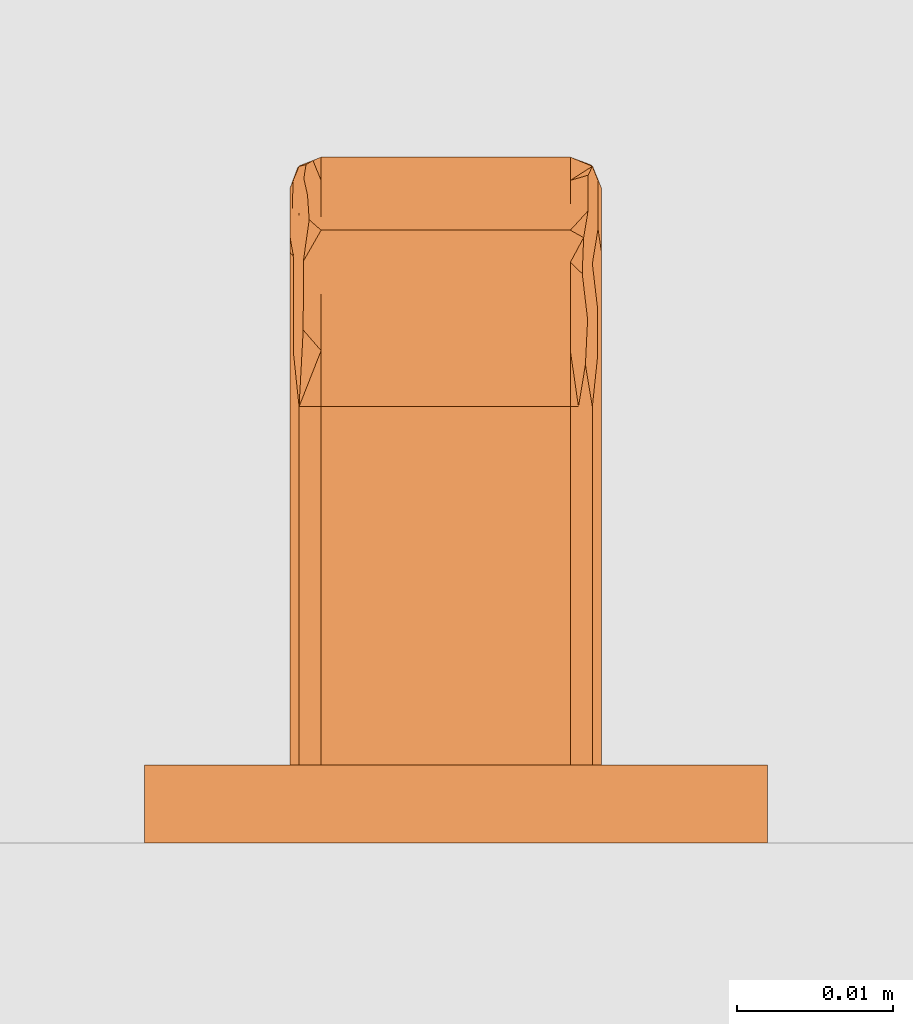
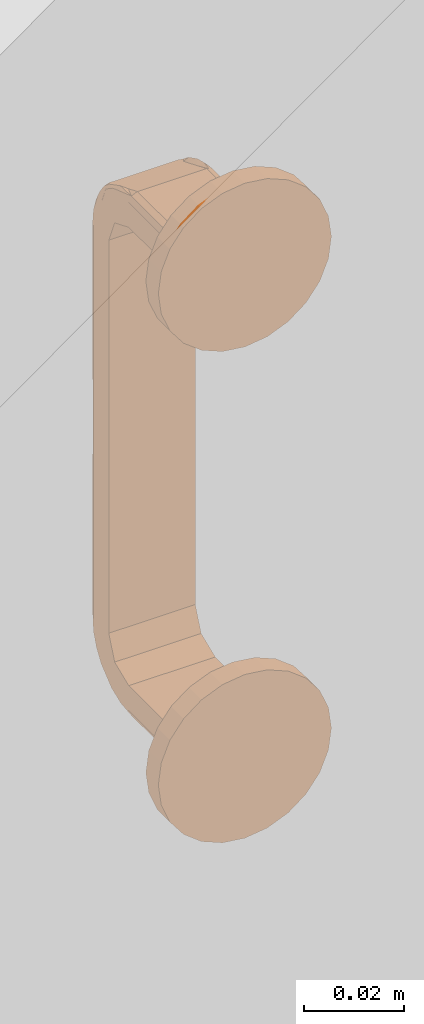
# One storey, part 42 of 67: 1 proxy.
"""IFC4 building model written with IfcOpenShell, lengths in millimetres."""

import ifcopenshell
import ifcopenshell.guid

model = None  # the IFC model being written
_history = None  # IfcOwnerHistory: only IFC2X3 demands one
_inside = {}  # id of a spatial element -> (the spatial element, [elements in it])
_under = {}  # id of a project, library or spatial element -> (it, [spatial elements below it])
_declared = {}  # id of a project -> (the project, [libraries it declares])
_typed = {}  # id of a type object -> (the type object, [elements of that type])
_made_of = {}  # id of a material, layer set ... -> (it, [elements and type objects made of it])


def new_model(schema):
    """Start an empty IFC model of exactly this schema.

    Asked for "IFC4X3", IfcOpenShell would pick the latest addendum, in which some entities
    have other attributes; the version numbers below select the first issue.
    IFC2X3 requires an IfcOwnerHistory on every rooted entity: one is made here for all.
    """
    global model, _history
    if schema == "IFC4X3":
        model = ifcopenshell.file(schema_version=(4, 3, 0, 0))
    else:
        model = ifcopenshell.file(schema=schema)
    _inside.clear()
    _under.clear()
    _declared.clear()
    _typed.clear()
    _made_of.clear()
    _history = None
    if model.schema == "IFC2X3":
        org = make("IfcOrganization", Name="unknown")
        user = make(
            "IfcPersonAndOrganization",
            ThePerson=make("IfcPerson", FamilyName="unknown"),
            TheOrganization=org,
        )
        app = make(
            "IfcApplication",
            ApplicationDeveloper=org,
            Version="unknown",
            ApplicationFullName="unknown",
            ApplicationIdentifier="unknown",
        )
        _history = make(
            "IfcOwnerHistory",
            OwningUser=user,
            OwningApplication=app,
            ChangeAction="ADDED",
            CreationDate=0,
        )
    return model


def make(cls, **values):
    """One entity of the class cls with the attributes given. An attribute that is None is left unset."""
    return model.create_entity(
        cls, **{name: value for name, value in values.items() if value is not None}
    )


def entity(cls, *values):
    """Any entity or typed value of the class cls, its attributes in the order of the schema. None: left unset."""
    e = model.create_entity(cls)
    for i, value in enumerate(values):
        if value is not None:
            e[i] = value
    return e


def rooted(cls, **values):
    """An entity with a GlobalId (a new one), such as an element, a storey or a relation."""
    return make(cls, GlobalId=ifcopenshell.guid.new(), OwnerHistory=_history, **values)


def si_unit(unit_type, name, prefix=None):
    """IfcSIUnit, for example si_unit("LENGTHUNIT", "METRE", prefix="MILLI")."""
    return make("IfcSIUnit", UnitType=unit_type, Prefix=prefix, Name=name)


def converted_unit(unit_type, name, factor, base, dimensions=None, offset=None):
    """IfcConversionBasedUnit, such as the inch: factor (a typed value) times the base unit."""
    return make(
        "IfcConversionBasedUnit"
        if offset is None
        else "IfcConversionBasedUnitWithOffset",
        ConversionOffset=offset,
        Dimensions=None
        if dimensions is None
        else entity("IfcDimensionalExponents", *dimensions),
        UnitType=unit_type,
        Name=name,
        ConversionFactor=make(
            "IfcMeasureWithUnit", ValueComponent=factor, UnitComponent=base
        ),
    )


def assignment(units):
    """IfcUnitAssignment: the units of a project."""
    return None if units is None else make("IfcUnitAssignment", Units=units)


def point(xyz):
    """IfcCartesianPoint."""
    return None if xyz is None else make("IfcCartesianPoint", Coordinates=xyz)


def direction(xyz):
    """IfcDirection."""
    return None if xyz is None else make("IfcDirection", DirectionRatios=xyz)


def frame(location, z_axis=None, x_axis=None):
    """IfcAxis2Placement3D, a coordinate frame: its origin and axes. An axis left out is left unset."""
    return make(
        "IfcAxis2Placement3D",
        Location=point(location),
        Axis=direction(z_axis),
        RefDirection=direction(x_axis),
    )


def origin():
    """The frame at (0, 0, 0) with its axes left unset."""
    return frame((0.0, 0.0, 0.0))


def place(relative_to, where):
    """IfcLocalPlacement: puts the frame where relative to a parent placement (None: the world)."""
    return make(
        "IfcLocalPlacement", PlacementRelTo=relative_to, RelativePlacement=where
    )


def context(
    kind, dimensions, precision=None, world=None, true_north=None, identifier=None
):
    """IfcGeometricRepresentationContext, for example the 3D "Model" context."""
    return make(
        "IfcGeometricRepresentationContext",
        ContextIdentifier=identifier,
        ContextType=kind,
        CoordinateSpaceDimension=dimensions,
        Precision=precision,
        WorldCoordinateSystem=world,
        TrueNorth=true_north,
    )


def subcontext(parent, identifier, kind, view, scale=None):
    """IfcGeometricRepresentationSubContext, for example "Body" below "Model"."""
    return make(
        "IfcGeometricRepresentationSubContext",
        ContextIdentifier=identifier,
        ContextType=kind,
        ParentContext=parent,
        TargetScale=scale,
        TargetView=view,
    )


def project(units=None, contexts=None):
    """IfcProject with its units and contexts."""
    return rooted(
        "IfcProject",
        Name="project",
        RepresentationContexts=contexts,
        UnitsInContext=assignment(units),
    )


def spatial(cls, under=None, at=None, **own):
    """A site, building, storey or space (cls), placed at a placement, below another one or the project."""
    s = rooted(cls, ObjectPlacement=at, **own)
    if under is not None:
        _under.setdefault(under.id(), (under, []))[1].append(s)
    return s


def point_list(points):
    """IfcCartesianPointList2D or 3D."""
    cls = (
        "IfcCartesianPointList2D" if len(points[0]) == 2 else "IfcCartesianPointList3D"
    )
    return make(cls, CoordList=points)


def polygons(points, faces, closed=None, point_numbers=None):
    """IfcPolygonalFaceSet: a face is its outer loop, then its inner loops; points numbered from 1."""
    made = []
    for loops in faces:
        if len(loops) == 1:
            made.append(make("IfcIndexedPolygonalFace", CoordIndex=loops[0]))
        else:
            made.append(
                make(
                    "IfcIndexedPolygonalFaceWithVoids",
                    CoordIndex=loops[0],
                    InnerCoordIndices=loops[1:],
                )
            )
    return make(
        "IfcPolygonalFaceSet",
        Coordinates=point_list(points),
        Closed=closed,
        Faces=made,
        PnIndex=point_numbers,
    )


def shape(context_of_items, identifier, shape_type, items):
    """IfcShapeRepresentation: the items that make up one representation, for example the "Body"."""
    return make(
        "IfcShapeRepresentation",
        ContextOfItems=context_of_items,
        RepresentationIdentifier=identifier,
        RepresentationType=shape_type,
        Items=items,
    )


def source(mapping_origin, context_of_items, identifier, shape_type, items):
    """IfcRepresentationMap: a shape defined once, which mapped items show again and again."""
    return make(
        "IfcRepresentationMap",
        MappingOrigin=mapping_origin,
        MappedRepresentation=shape(context_of_items, identifier, shape_type, items),
    )


def transform(
    local_origin,
    x_axis=None,
    y_axis=None,
    z_axis=None,
    scale=None,
    scale2=None,
    scale3=None,
    uniform=True,
):
    """IfcCartesianTransformationOperator3D, or its non-uniform kind. x_axis, y_axis, z_axis: its Axis1, 2, 3."""
    if uniform:
        return make(
            "IfcCartesianTransformationOperator3D",
            Axis1=direction(x_axis),
            Axis2=direction(y_axis),
            LocalOrigin=point(local_origin),
            Scale=scale,
            Axis3=direction(z_axis),
        )
    return make(
        "IfcCartesianTransformationOperator3DnonUniform",
        Axis1=direction(x_axis),
        Axis2=direction(y_axis),
        LocalOrigin=point(local_origin),
        Scale=scale,
        Axis3=direction(z_axis),
        Scale2=scale2,
        Scale3=scale3,
    )


def mapped(mapping_source, mapping_target):
    """IfcMappedItem: shows the shape of a source again, moved by a transform."""
    return make(
        "IfcMappedItem", MappingSource=mapping_source, MappingTarget=mapping_target
    )


def material(Name=None, Category=None):
    """IfcMaterial."""
    return make("IfcMaterial", Name=Name, Category=Category)


def made_of(thing, what):
    """Note that an element or type object is made of a material, layer set ...; save() writes the relation."""
    if what is not None:
        _made_of.setdefault(what.id(), (what, []))[1].append(thing)
    return thing


def type_object(cls, material=None, **own):
    """A type object (cls), such as IfcWallType, which elements share."""
    return made_of(rooted(cls, **own), material)


def type_shapes(of_type, sources):
    """Give a type object the sources (RepresentationMaps) that its elements show as mapped items."""
    of_type.RepresentationMaps = sources


def element(
    cls,
    number,
    at=None,
    inside=None,
    cuts=None,
    type_object=None,
    material=None,
    context=None,
    identifier="Body",
    shape_type=None,
    held_by="IfcProductDefinitionShape",
    body=None,
    shapes=None,
    **own,
):
    """One element of the class cls, such as IfcWall. Its Tag is "e" and its number.

    at: its placement. inside: the storey or other place that contains it. cuts: it is an
    opening in that element (IfcRelVoidsElement). A single representation is given by context,
    identifier, shape_type and body (its items); several are given by shapes. held_by: the class
    of the entity that holds the representations. save() writes the other relations.
    """
    e = rooted(cls, Tag="e%d" % number, ObjectPlacement=at, **own)
    if body is not None:
        shapes = [shape(context, identifier, shape_type, body)]
    if shapes is not None:
        e.Representation = make(held_by, Representations=shapes)
    if inside is not None:
        _inside.setdefault(inside.id(), (inside, []))[1].append(e)
    if cuts is not None:
        rooted(
            "IfcRelVoidsElement", RelatingBuildingElement=cuts, RelatedOpeningElement=e
        )
    if type_object is not None:
        _typed.setdefault(type_object.id(), (type_object, []))[1].append(e)
    return made_of(e, material)


def aggregate(whole, parts):
    """IfcRelAggregates: a whole, such as a stair, and the parts it consists of."""
    return rooted("IfcRelAggregates", RelatingObject=whole, RelatedObjects=parts)


def save(model, path):
    """Write the relations noted so far, then the file.

    IfcRelAggregates (storeys below a building ...), IfcRelContainedInSpatialStructure (elements
    in a storey), IfcRelDefinesByType, IfcRelAssociatesMaterial and IfcRelDeclares: one each for
    every whole, place, type object, material and project.
    """
    for whole, parts in _under.values():
        aggregate(whole, parts)
    for where, things in _inside.values():
        rooted(
            "IfcRelContainedInSpatialStructure",
            RelatedElements=things,
            RelatingStructure=where,
        )
    for kind, things in _typed.values():
        rooted("IfcRelDefinesByType", RelatedObjects=things, RelatingType=kind)
    for what, things in _made_of.values():
        rooted("IfcRelAssociatesMaterial", RelatedObjects=things, RelatingMaterial=what)
    for by, libraries in _declared.values():
        rooted("IfcRelDeclares", RelatingContext=by, RelatedDefinitions=libraries)
    model.write(path)


model = new_model("IFC4")

# Units and contexts
model_context = context("Model", 3, precision=0.01, world=origin(), true_north=direction((0.0, 1.0)))
body_context = subcontext(model_context, "Body", "Model", "MODEL_VIEW")
ifc_project = project(units=[si_unit("LENGTHUNIT", "METRE", prefix="MILLI"), si_unit("AREAUNIT", "SQUARE_METRE"), si_unit("VOLUMEUNIT", "CUBIC_METRE"), converted_unit("PLANEANGLEUNIT", "DEGREE", entity("IfcPlaneAngleMeasure", 0.017453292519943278), si_unit("PLANEANGLEUNIT", "RADIAN"), dimensions=[0, 0, 0, 0, 0, 0, 0])], contexts=[model_context])

# Site, building, storey, space
site_placement = place(None, origin())
site = spatial("IfcSite", under=ifc_project, at=site_placement, Name="Tomtens navn", CompositionType="ELEMENT")
building_placement = place(site_placement, origin())
building = spatial("IfcBuilding", under=site, at=building_placement, Name="Byggets navn", CompositionType="ELEMENT")
storey_placement = place(building_placement, origin())
storey = spatial("IfcBuildingStorey", under=building, at=storey_placement, Name="Level 01", CompositionType="ELEMENT", Elevation=2.1993652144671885e-25)
space_placement = place(storey_placement, origin())
space = spatial("IfcSpace", under=storey, at=space_placement, Name="102", CompositionType="ELEMENT", PredefinedType="NOTDEFINED")

# Proxy
ifc_material = material(Name="Handtag, vitt", Category="Unassigned")
building_element_proxy_type = type_object("IfcBuildingElementProxyType", Name="Handtag skåp1:Handtag skåp", PredefinedType="NOTDEFINED", material=ifc_material)
shared_shape = source(origin(), body_context, "Body", "Tessellation", [
    polygons([(8.670220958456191, -4.999999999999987, 4.021099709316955), (10.084434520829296, -4.9999999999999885, 3.435313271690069), (10.67022095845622, -4.999999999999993, 2.021099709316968), (10.67022095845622, -5.0000000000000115, -4.0210997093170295), (-9.32977904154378, -5.0000000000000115, -4.0210997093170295), (-9.32977904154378, -4.999999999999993, 2.021099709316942), (-8.743992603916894, -4.9999999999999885, 3.435313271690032), (-7.32977904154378, -4.999999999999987, 4.021099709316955), (8.670220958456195, -28.00000000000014, 4.0210997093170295), (10.084434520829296, -28.000000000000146, 3.435313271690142), (10.67022095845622, -28.00000000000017, 2.021099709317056), (8.670220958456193, -15.654960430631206, 4.02109970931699), (10.67022095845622, -17.34503987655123, 2.021099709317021), (10.08659387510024, -16.21238630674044, 3.433150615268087), (10.67022095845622, -37.914414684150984, -2.085585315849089), (10.67022095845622, -42.02109970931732, -11.999999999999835), (10.67022095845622, -42.02109970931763, -107.99999999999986), (10.67022095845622, -37.914414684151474, -117.91441468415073), (10.67022095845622, -28.00000000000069, -122.02109970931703), (10.67022095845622, -4.999999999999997, -122.02109970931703), (10.67022095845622, -4.999999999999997, -115.97890029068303), (10.67022095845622, -28.000000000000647, -115.97890029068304), (10.67022095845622, -33.641934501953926, -113.64193450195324), (10.67022095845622, -35.978900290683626, -107.99999999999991), (10.67022095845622, -35.978900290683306, -11.999999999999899), (10.67022095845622, -33.64193450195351, -6.358065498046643), (10.67022095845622, -28.000000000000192, -4.021099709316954), (-9.32977904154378, -28.000000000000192, -4.021099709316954), (-9.32977904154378, -33.64193450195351, -6.358065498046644), (-9.32977904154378, -35.97890029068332, -11.999999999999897), (-9.32977904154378, -35.97890029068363, -107.99999999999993), (-9.32977904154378, -33.641934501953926, -113.64193450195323), (-9.32977904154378, -28.000000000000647, -115.978900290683), (-9.32977904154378, -4.999999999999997, -115.978900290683), (-9.32977904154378, -4.999999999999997, -122.02109970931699), (-9.32977904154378, -28.00000000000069, -122.02109970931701), (-9.32977904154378, -37.91441468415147, -117.91441468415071), (-9.32977904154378, -42.0210997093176, -107.9999999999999), (-9.32977904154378, -42.02109970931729, -11.99999999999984), (-9.32977904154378, -37.91441468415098, -2.085585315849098), (-9.32977904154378, -28.000000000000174, 2.0210997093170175), (-8.743992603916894, -28.000000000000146, 3.435313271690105), (-7.329779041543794, -28.000000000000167, 4.0210997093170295), (-9.32977904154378, -15.654960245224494, 2.0210997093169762), (-7.3297790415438, -17.3450402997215, 4.021099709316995), (-8.741829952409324, -16.212386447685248, 3.4374726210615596), (8.670220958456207, -39.328628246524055, -0.6713717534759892), (8.670220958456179, -44.021099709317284, -11.999999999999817), (10.084434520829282, -43.43531327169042, -11.999999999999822), (10.67022095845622, -31.601265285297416, 0.5294067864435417), (8.670220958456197, -41.037713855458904, -4.797469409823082), (10.084434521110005, -40.40873190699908, -2.820007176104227), (8.670220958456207, -35.20253058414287, 1.0377138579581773), (9.809043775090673, -37.34144424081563, 0.5752165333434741), (9.818751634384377, -32.92350079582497, 2.8642465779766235), (10.67022095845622, -39.96775719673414, -7.042792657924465), (10.377327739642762, -28.000000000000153, 2.7282064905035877), (8.670220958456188, -42.529406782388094, -8.398734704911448), (9.779150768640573, -42.65191997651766, -6.400304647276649), (10.431420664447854, -34.75591670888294, 1.3575143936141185), (10.447049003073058, -37.641402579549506, -0.5884869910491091), (10.67022095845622, -34.7578399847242, -0.7780892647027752), (10.453824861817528, -31.5292743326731, 2.5026982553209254), (8.670220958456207, -31.601265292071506, 2.5294067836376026), (8.670220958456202, -40.18317105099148, -2.7344205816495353), (9.435587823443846, -40.00295364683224, -1.6197407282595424), (9.543801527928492, -41.59747716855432, -3.9137042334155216), (10.67022095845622, -38.941085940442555, -4.564188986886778), (10.502246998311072, -40.95405539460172, -4.794062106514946), (10.477567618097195, -42.45420227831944, -8.476170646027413), (9.193272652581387, -43.80444460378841, -11.999999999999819), (9.638611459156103, -43.53877057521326, -9.303396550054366), (10.67022095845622, -40.99442845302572, -9.521396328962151), (-7.329779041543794, -44.021099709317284, -11.999999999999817), (-7.329779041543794, -39.328628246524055, -0.6713717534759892), (-8.743992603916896, -43.43531327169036, -11.999999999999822), (-7.329779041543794, -35.20253057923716, 1.0377138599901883), (-8.743992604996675, -37.179992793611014, 0.40873192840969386), (-9.32977904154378, -40.52940677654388, -8.39873469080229), (-7.329779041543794, -41.03771385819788, -4.7974694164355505), (-8.468601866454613, -40.57521654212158, -2.658555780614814), (-8.478309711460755, -42.86424658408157, -7.076499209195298), (-9.32977904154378, -32.95720734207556, -0.03224280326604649), (-9.036885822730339, -42.72820649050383, -11.999999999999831), (-7.329779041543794, -31.601265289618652, 2.529406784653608), (-8.43870885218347, -33.59969531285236, 2.6519199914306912), (-9.090978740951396, -41.35751443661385, -5.244083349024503), (-9.106607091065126, -39.41151304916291, -2.3585974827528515), (-9.32977904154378, -39.221910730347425, -5.242160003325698), (-9.11338295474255, -42.50269824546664, -8.470725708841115), (-7.329779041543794, -42.52940678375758, -8.398734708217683), (-7.329779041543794, -37.26557941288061, 0.18317105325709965), (-8.095145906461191, -36.54048464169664, 1.37463273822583), (-8.182791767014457, -38.855367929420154, -0.47819170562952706), (-9.32977904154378, -35.43581101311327, -1.0589140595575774), (-7.852830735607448, -28.00000000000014, 3.8044446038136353), (-8.29816953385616, -30.69660343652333, 3.5387705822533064), (-9.060718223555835, -31.048754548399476, 2.7104148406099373), (-9.074370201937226, -34.340507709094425, 1.5930015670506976), (-9.32977904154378, -30.47860367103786, 0.9944284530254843), (-7.32977904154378, -33.664314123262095, 1.6748639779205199), (8.670220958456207, -33.664314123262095, 1.6748639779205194), (8.670220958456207, -30.748770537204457, 2.882521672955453), (-7.32977904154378, -41.67486397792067, -6.335685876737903), (8.670220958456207, -41.67486397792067, -6.335685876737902), (8.670220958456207, -40.50174611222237, -3.5035288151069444), (-7.32977904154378, -36.496471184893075, 0.5017461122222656), (8.670220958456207, -36.496471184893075, 0.5017461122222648), (-7.32977904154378, -30.83215706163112, 2.847981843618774), (8.670220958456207, -42.882521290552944, -9.251228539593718), (-7.32977904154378, -42.84798184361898, -9.167842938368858), (-7.32977904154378, -40.501746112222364, -3.5035288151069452), (8.670220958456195, -44.0210997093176, -107.99999999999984), (10.084434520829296, -43.435313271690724, -107.99999999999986), (10.67022095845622, -42.02109970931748, -61.38015936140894), (8.670220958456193, -44.021099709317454, -59.99999999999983), (8.670220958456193, -44.02109970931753, -83.30991987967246), (10.67022095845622, -42.02109970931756, -84.69007929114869), (8.670220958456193, -44.021099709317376, -36.69008012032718), (10.67022095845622, -42.02109970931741, -36.69007929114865), (10.67022095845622, -42.02109970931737, -24.34503925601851), (8.670220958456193, -44.021099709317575, -95.65495940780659), (8.670220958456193, -44.02109970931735, -24.345040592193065), (10.67022095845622, -42.021099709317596, -95.65495996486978), (10.084434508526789, -43.43531328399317, -90.1725199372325), (10.67022095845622, -42.021099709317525, -73.03511932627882), (10.043884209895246, -43.4747328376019, -67.20763959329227), (10.084434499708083, -43.435313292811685, -30.517560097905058), (10.084434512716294, -43.435313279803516, -43.7229280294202), (10.67022095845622, -42.021099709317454, -49.035119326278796), (10.049878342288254, -43.469044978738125, -55.462843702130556), (8.670220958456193, -44.02109970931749, -71.65495993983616), (10.188152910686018, -43.32336027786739, -78.66752152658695), (8.670220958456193, -44.02109970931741, -48.345040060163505), (-8.743992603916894, -43.43531327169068, -107.99999999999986), (-7.329779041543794, -44.0210997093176, -107.99999999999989), (-7.3297790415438, -44.02109970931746, -61.38015933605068), (-9.32977904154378, -42.021099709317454, -59.999999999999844), (-9.32977904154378, -42.02109970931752, -83.30992008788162), (-7.329779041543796, -44.02109970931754, -84.69007966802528), (-9.32977904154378, -42.02109970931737, -36.6900794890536), (-7.329779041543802, -44.021099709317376, -36.69007998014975), (-7.329779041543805, -44.02109970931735, -24.345039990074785), (-9.32977904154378, -42.02109970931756, -95.65495983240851), (-9.32977904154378, -42.02109970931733, -24.34503974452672), (-7.329779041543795, -44.021099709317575, -95.6549600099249), (-8.743992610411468, -43.43531326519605, -90.17252002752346), (-7.329779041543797, -44.0210997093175, -73.03511950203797), (-8.783412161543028, -43.39476296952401, -67.20763991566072), (-8.743992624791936, -43.43531325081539, -30.51756039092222), (-8.743992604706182, -43.43531327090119, -43.72292838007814), (-7.3297790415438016, -44.02109970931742, -49.03511997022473), (-8.777724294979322, -43.40075710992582, -55.462844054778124), (-9.32977904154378, -42.02109970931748, -71.65496025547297), (-8.632039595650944, -43.53903167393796, -78.66752173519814), (-9.32977904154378, -42.021099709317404, -48.34503974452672), (8.670220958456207, -39.32862824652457, -119.32862824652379), (8.670220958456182, -28.000000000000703, -124.02109970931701), (10.08443452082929, -28.0000000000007, -123.43531327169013), (10.67022095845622, -40.52940678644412, -111.60126528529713), (8.670220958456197, -35.202530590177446, -121.03771385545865), (10.084434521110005, -37.17999282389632, -120.40873190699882), (8.670220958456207, -41.03771385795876, -115.20253058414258), (9.809043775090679, -40.57521653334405, -117.34144424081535), (9.818751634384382, -42.864246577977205, -112.9235007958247), (10.67022095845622, -32.95720734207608, -119.96775719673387), (10.377327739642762, -42.728206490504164, -107.99999999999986), (8.67022095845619, -31.601265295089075, -122.52940678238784), (9.779150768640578, -33.59969535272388, -122.6519199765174), (10.431420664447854, -41.3575143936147, -114.75591670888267), (10.447049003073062, -39.41151300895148, -117.64140257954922), (10.67022095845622, -39.2219107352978, -114.75783998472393), (10.453824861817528, -42.50269825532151, -111.52927433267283), (8.670220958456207, -42.52940678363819, -111.60126529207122), (8.670220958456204, -37.26557941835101, -120.18317105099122), (9.435587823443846, -38.38025927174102, -120.00295364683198), (9.543801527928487, -36.08629576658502, -121.59747716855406), (10.67022095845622, -35.435811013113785, -118.9410859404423), (10.502246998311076, -35.205937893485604, -120.95405539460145), (10.477567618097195, -31.52382935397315, -122.45420227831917), (9.193272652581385, -28.0000000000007, -123.80444460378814), (9.638611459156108, -30.69660344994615, -123.538770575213), (10.67022095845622, -30.47860367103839, -120.99442845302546), (-7.329779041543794, -28.000000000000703, -124.02109970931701), (-7.329779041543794, -39.32862824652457, -119.32862824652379), (-8.743992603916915, -28.0000000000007, -123.43531327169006), (-7.329779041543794, -41.03771385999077, -115.20253057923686), (-8.743992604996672, -40.40873192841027, -117.17999279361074), (-9.32977904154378, -31.60126530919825, -120.52940677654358), (-7.329779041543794, -35.20253058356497, -121.03771385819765), (-8.468601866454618, -37.341444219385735, -120.57521654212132), (-8.478309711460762, -32.92350079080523, -122.8642465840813), (-9.32977904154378, -39.967757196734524, -112.9572073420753), (-9.036885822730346, -28.000000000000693, -122.72820649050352), (-7.329779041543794, -42.529406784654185, -111.60126528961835), (-8.438708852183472, -42.65191999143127, -113.59969531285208), (-9.090978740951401, -34.75591665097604, -121.35751443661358), (-9.106607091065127, -37.64140251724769, -119.41151304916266), (-9.32977904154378, -34.75783999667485, -119.22191073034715), (-9.113382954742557, -31.529274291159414, -122.50269824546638), (-7.329779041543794, -31.601265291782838, -122.52940678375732), (-7.329779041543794, -40.18317105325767, -117.26557941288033), (-8.095145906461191, -41.37463273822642, -116.54048464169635), (-8.182791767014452, -39.521808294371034, -118.8553679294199), (-9.32977904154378, -38.941085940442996, -115.435811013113), (-7.852830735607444, -43.804444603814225, -107.99999999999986), (-8.298169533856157, -43.53877058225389, -110.69660343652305), (-9.060718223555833, -42.710414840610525, -111.04875454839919), (-9.074370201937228, -41.59300156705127, -114.34050770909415), (-9.32977904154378, -40.99442845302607, -110.47860367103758), (-7.32977904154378, -41.6748639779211, -113.66431412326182), (8.670220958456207, -41.6748639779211, -113.66431412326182), (8.670220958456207, -42.88252167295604, -110.74877053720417), (-7.32977904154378, -33.66431412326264, -121.67486397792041), (8.670220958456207, -33.66431412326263, -121.67486397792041), (8.670220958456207, -36.4964711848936, -120.50174611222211), (-7.32977904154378, -40.50174611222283, -116.49647118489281), (8.670220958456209, -40.50174611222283, -116.49647118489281), (-7.32977904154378, -42.84798184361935, -110.83215706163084), (8.670220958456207, -30.748771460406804, -122.88252129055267), (-7.32977904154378, -30.832157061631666, -122.84798184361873), (-7.32977904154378, -36.49647118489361, -120.50174611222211), (8.670220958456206, -4.99999999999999, -124.02109970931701), (-7.329779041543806, -4.99999999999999, -124.021099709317), (-8.743992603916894, -4.99999999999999, -123.43531327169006), (10.084434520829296, -4.99999999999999, -123.43531327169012), (8.670220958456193, -17.345041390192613, -124.021099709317), (10.67022095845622, -15.654959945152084, -122.02109970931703), (10.086593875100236, -16.787613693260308, -123.43315061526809), (-9.32977904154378, -17.34504010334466, -122.02109970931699), (-7.3297790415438, -15.654959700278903, -124.021099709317), (-8.741829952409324, -16.787613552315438, -123.43747262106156)], [[[8, 1, 2, 3, 4, 5, 6, 7]], [[30, 25, 24, 31]], [[35, 34, 21, 20, 226, 223, 224, 225]], [[13, 10, 57, 11]], [[10, 13, 14]], [[14, 12, 9]], [[12, 2, 1]], [[14, 2, 12]], [[3, 14, 13]], [[3, 2, 14]], [[9, 10, 14]], [[4, 3, 13, 11, 50, 62, 15, 68, 56, 73, 16, 121, 120, 130, 115, 126, 118, 124, 17, 160, 172, 18, 178, 166, 183, 19, 228, 20, 21, 22, 23, 24, 25, 26, 27]], [[5, 4, 27, 28]], [[184, 231, 224, 223, 227, 158]], [[34, 35, 230, 36, 189, 199, 37, 205, 193, 210, 38, 144, 139, 154, 138, 156, 141, 145, 39, 79, 89, 40, 95, 83, 100, 41, 44, 6, 5, 28, 29, 30, 31, 32, 33]], [[45, 42, 96, 43]], [[42, 45, 46]], [[46, 44, 41]], [[44, 7, 6]], [[46, 7, 44]], [[8, 46, 45]], [[8, 7, 46]], [[41, 42, 46]], [[1, 8, 45, 43, 9, 12]], [[33, 22, 21, 34]], [[61, 62, 60]], [[69, 56, 68]], [[47, 65, 66]], [[53, 54, 55]], [[59, 51, 105, 58]], [[67, 65, 106, 51]], [[70, 56, 69]], [[63, 60, 50]], [[10, 64, 55]], [[52, 67, 59]], [[54, 53, 108, 47]], [[58, 71, 72]], [[60, 55, 54]], [[68, 61, 69]], [[67, 52, 66]], [[15, 61, 68]], [[63, 10, 55]], [[11, 57, 10, 63]], [[71, 58, 110, 48]], [[49, 16, 70]], [[61, 60, 54]], [[50, 11, 63]], [[52, 61, 54]], [[62, 61, 15]], [[62, 50, 60]], [[55, 60, 63]], [[10, 9, 103, 64]], [[55, 64, 102, 53]], [[52, 54, 66]], [[54, 47, 66]], [[65, 67, 66]], [[51, 59, 67]], [[61, 52, 69]], [[52, 59, 69]], [[70, 69, 59]], [[59, 72, 70]], [[70, 16, 73, 56]], [[72, 71, 49]], [[70, 72, 49]], [[58, 72, 59]], [[26, 29, 28, 27]], [[25, 30, 29, 26]], [[96, 85, 109, 43]], [[90, 87, 79]], [[86, 77, 101, 85]], [[98, 99, 86]], [[93, 92, 107, 77]], [[87, 82, 81]], [[81, 82, 80]], [[99, 95, 78]], [[88, 89, 87]], [[86, 99, 78]], [[78, 94, 93]], [[76, 91, 82]], [[81, 80, 112, 75]], [[92, 93, 94]], [[94, 78, 88]], [[40, 88, 95]], [[90, 76, 82]], [[39, 84, 76, 90]], [[98, 97, 42]], [[97, 98, 86]], [[88, 87, 81]], [[79, 39, 90]], [[88, 81, 94]], [[89, 88, 40]], [[89, 79, 87]], [[82, 87, 90]], [[76, 74, 111, 91]], [[82, 91, 104, 80]], [[77, 86, 93]], [[86, 78, 93]], [[81, 75, 94]], [[92, 94, 75]], [[95, 88, 78]], [[97, 96, 42]], [[85, 96, 97]], [[85, 97, 86]], [[42, 41, 98]], [[100, 83, 95, 99]], [[99, 98, 100]], [[98, 41, 100]], [[103, 9, 43, 109, 85, 101, 77, 107, 92, 75, 47, 108, 53, 102, 64]], [[105, 51, 106, 65, 47, 75, 112, 80, 104, 91, 111, 74, 48, 110, 58]], [[121, 16, 49, 128, 129, 130, 120]], [[118, 125, 114, 167, 17, 124]], [[126, 133, 118]], [[126, 115, 127]], [[123, 119, 134, 129, 128, 49, 71, 48]], [[125, 117, 122, 113, 114]], [[131, 130, 129]], [[130, 131, 115]], [[126, 127, 133]], [[127, 116, 132]], [[133, 117, 125]], [[131, 134, 116]], [[131, 116, 127]], [[115, 131, 127]], [[131, 129, 134]], [[133, 127, 132]], [[133, 132, 117]], [[118, 133, 125]], [[143, 74, 76, 150, 151, 152, 142]], [[140, 147, 135, 206, 136, 146]], [[148, 155, 140]], [[148, 137, 149]], [[145, 141, 156, 151, 150, 76, 84, 39]], [[147, 139, 144, 38, 135]], [[153, 152, 151]], [[152, 153, 137]], [[148, 149, 155]], [[149, 138, 154]], [[155, 139, 147]], [[153, 156, 138]], [[153, 138, 149]], [[137, 153, 149]], [[153, 151, 156]], [[155, 149, 154]], [[155, 154, 139]], [[140, 155, 147]], [[48, 74, 143, 142, 152, 137, 148, 140, 146, 136, 113, 122, 117, 132, 116, 134, 119, 123]], [[171, 172, 170]], [[179, 166, 178]], [[157, 176, 164]], [[163, 164, 165]], [[169, 161, 215, 168]], [[176, 157, 175]], [[180, 166, 179]], [[173, 170, 160]], [[114, 174, 165]], [[162, 177, 169]], [[164, 163, 218, 157]], [[168, 181, 182]], [[170, 165, 164]], [[178, 171, 179]], [[177, 162, 176]], [[18, 171, 178]], [[173, 114, 165]], [[17, 167, 114, 173]], [[181, 168, 220, 158]], [[159, 19, 180]], [[171, 170, 164]], [[160, 17, 173]], [[162, 171, 164]], [[172, 171, 18]], [[172, 160, 170]], [[165, 170, 173]], [[114, 113, 213, 174]], [[165, 174, 212, 163]], [[177, 175, 216, 161]], [[164, 176, 162]], [[175, 177, 176]], [[161, 169, 177]], [[171, 162, 179]], [[162, 169, 179]], [[180, 179, 169]], [[169, 182, 180]], [[180, 19, 183, 166]], [[182, 181, 159]], [[180, 182, 159]], [[168, 182, 169]], [[23, 32, 31, 24]], [[22, 33, 32, 23]], [[206, 195, 219, 136]], [[200, 197, 189]], [[196, 187, 211, 195]], [[208, 209, 196]], [[203, 202, 217, 187]], [[197, 192, 191]], [[191, 192, 190]], [[209, 205, 188]], [[198, 199, 197]], [[196, 209, 188]], [[188, 204, 203]], [[186, 201, 192]], [[191, 190, 222, 185]], [[202, 203, 204]], [[203, 196, 188]], [[37, 198, 205]], [[200, 186, 192]], [[36, 194, 186, 200]], [[208, 207, 135]], [[207, 208, 196]], [[198, 197, 191]], [[189, 36, 200]], [[198, 191, 204]], [[199, 198, 37]], [[199, 189, 197]], [[192, 197, 200]], [[186, 184, 221, 201]], [[192, 201, 214, 190]], [[196, 203, 187]], [[198, 204, 188]], [[191, 185, 204]], [[202, 204, 185]], [[205, 198, 188]], [[207, 206, 135]], [[195, 206, 207]], [[195, 207, 196]], [[135, 38, 208]], [[210, 193, 205, 209]], [[209, 208, 210]], [[208, 38, 210]], [[213, 113, 136, 219, 195, 211, 187, 217, 202, 185, 157, 218, 163, 212, 174]], [[215, 161, 216, 175, 157, 185, 222, 190, 214, 201, 221, 184, 158, 220, 168]], [[228, 226, 20]], [[226, 228, 229]], [[229, 227, 223]], [[227, 159, 181, 158]], [[229, 159, 227]], [[19, 229, 228]], [[19, 159, 229]], [[223, 226, 229]], [[231, 225, 224]], [[225, 231, 232]], [[232, 230, 35]], [[230, 186, 194, 36]], [[232, 186, 230]], [[184, 232, 231]], [[184, 186, 232]], [[35, 225, 232]]], closed=True),
    polygons([(-20.00000000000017, -4.999999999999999, 1.386238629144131e-14), (-19.318516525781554, -4.999999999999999, -5.176380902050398), (-17.320508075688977, -4.999999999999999, -9.999999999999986), (-14.14213562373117, -4.999999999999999, -14.142135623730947), (-10.000000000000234, -4.999999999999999, -17.320508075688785), (-5.176380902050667, -4.999999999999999, -19.318516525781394), (-2.580269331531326e-13, -4.999999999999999, -20.00000000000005), (5.176380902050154, -4.999999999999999, -19.31851652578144), (9.999999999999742, -4.999999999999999, -17.320508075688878), (14.142135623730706, -4.999999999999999, -14.142135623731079), (17.320508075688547, -4.999999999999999, -10.000000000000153), (19.318516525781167, -4.999999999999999, -5.176380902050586), (19.999999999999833, -4.999999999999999, -5.075939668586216e-14), (19.3185165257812, -4.999999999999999, 5.17638090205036), (17.32050807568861, -4.999999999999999, 9.999999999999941), (14.142135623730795, -4.999999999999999, 14.142135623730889), (9.99999999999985, -4.999999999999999, 17.32050807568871), (5.176380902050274, -4.999999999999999, 19.31851652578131), (-1.3958834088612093e-13, -4.999999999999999, 19.99999999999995), (-5.176380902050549, -4.999999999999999, 19.318516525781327), (-10.000000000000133, -4.999999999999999, 17.320508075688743), (-14.142135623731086, -4.999999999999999, 14.142135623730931), (-17.320508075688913, -4.999999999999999, 9.999999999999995), (-19.318516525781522, -4.999999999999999, 5.176380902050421), (-20.00000000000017, 0.0, 4.9806020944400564e-15), (-19.318516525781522, 0.0, 5.176380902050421), (-17.320508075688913, 0.0, 9.999999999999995), (-14.142135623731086, 0.0, 14.142135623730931), (-10.000000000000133, 0.0, 17.320508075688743), (-5.176380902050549, 0.0, 19.318516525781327), (-1.3958834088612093e-13, 0.0, 19.99999999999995), (5.176380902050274, 0.0, 19.31851652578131), (9.99999999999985, 0.0, 17.32050807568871), (14.142135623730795, 0.0, 14.142135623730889), (17.32050807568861, 0.0, 9.999999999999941), (19.3185165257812, 0.0, 5.17638090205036), (19.999999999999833, 0.0, -1.622393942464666e-13), (19.318516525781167, 0.0, -5.176380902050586), (17.320508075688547, 0.0, -10.000000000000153), (14.142135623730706, 0.0, -14.142135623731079), (9.999999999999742, 0.0, -17.320508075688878), (5.176380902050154, 0.0, -19.31851652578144), (-2.580269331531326e-13, 0.0, -20.00000000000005), (-5.176380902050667, 0.0, -19.318516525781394), (-10.000000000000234, 0.0, -17.320508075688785), (-14.14213562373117, 0.0, -14.142135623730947), (-17.320508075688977, 0.0, -9.999999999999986), (-19.318516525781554, 0.0, -5.176380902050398)], [[[8, 9, 10, 11, 12, 13, 14, 15, 16, 17, 18, 19, 20, 21, 22, 23, 24, 1, 2, 3, 4, 5, 6, 7]], [[31, 32, 33, 34, 35, 36, 37, 38, 39, 40, 41, 42, 43, 44, 45, 46, 47, 48, 25, 26, 27, 28, 29, 30]], [[48, 2, 1, 25]], [[47, 3, 2, 48]], [[5, 4, 46, 45]], [[47, 46, 4, 3]], [[6, 5, 45, 44]], [[7, 6, 44, 43]], [[42, 8, 7, 43]], [[41, 9, 8, 42]], [[11, 10, 40, 39]], [[41, 40, 10, 9]], [[12, 11, 39, 38]], [[13, 12, 38, 37]], [[36, 14, 13, 37]], [[35, 15, 14, 36]], [[17, 16, 34, 33]], [[35, 34, 16, 15]], [[18, 17, 33, 32]], [[19, 18, 32, 31]], [[30, 20, 19, 31]], [[29, 21, 20, 30]], [[23, 22, 28, 27]], [[29, 28, 22, 21]], [[24, 23, 27, 26]], [[1, 24, 26, 25]]], closed=True),
    polygons([(-20.000000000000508, -4.999999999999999, -120.0), (-19.31851652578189, -4.999999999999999, -125.17638090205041), (-17.32050807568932, -4.999999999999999, -130.0), (-14.142135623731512, -4.999999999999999, -134.14213562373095), (-10.000000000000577, -4.999999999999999, -137.3205080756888), (-5.176380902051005, -4.999999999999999, -139.3185165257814), (-6.006528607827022e-13, -4.999999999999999, -140.00000000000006), (5.176380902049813, -4.999999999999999, -139.31851652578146), (9.999999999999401, -4.999999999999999, -137.3205080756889), (14.142135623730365, -4.999999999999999, -134.1421356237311), (17.320508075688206, -4.999999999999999, -130.00000000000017), (19.318516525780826, -4.999999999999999, -125.1763809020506), (19.999999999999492, -4.999999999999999, -120.00000000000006), (19.31851652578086, -4.999999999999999, -114.82361909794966), (17.32050807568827, -4.999999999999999, -110.00000000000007), (14.142135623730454, -4.999999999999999, -105.85786437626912), (9.99999999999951, -4.999999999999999, -102.6794919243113), (5.176380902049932, -4.999999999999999, -100.6814834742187), (-4.779843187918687e-13, -4.999999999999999, -100.00000000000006), (-5.176380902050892, -4.999999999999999, -100.68148347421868), (-10.000000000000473, -4.999999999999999, -102.67949192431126), (-14.142135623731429, -4.999999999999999, -105.85786437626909), (-17.320508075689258, -4.999999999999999, -110.00000000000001), (-19.31851652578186, -4.999999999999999, -114.82361909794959), (-20.000000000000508, 0.0, -120.00000000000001), (-19.31851652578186, 0.0, -114.82361909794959), (-17.320508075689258, 0.0, -110.00000000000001), (-14.142135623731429, 0.0, -105.85786437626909), (-10.000000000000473, 0.0, -102.67949192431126), (-5.176380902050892, 0.0, -100.68148347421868), (-4.779843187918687e-13, 0.0, -100.00000000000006), (5.176380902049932, 0.0, -100.6814834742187), (9.99999999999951, 0.0, -102.6794919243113), (14.142135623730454, 0.0, -105.85786437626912), (17.32050807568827, 0.0, -110.00000000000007), (19.31851652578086, 0.0, -114.82361909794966), (19.999999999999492, 0.0, -120.00000000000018), (19.318516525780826, 0.0, -125.1763809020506), (17.320508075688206, 0.0, -130.00000000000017), (14.142135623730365, 0.0, -134.1421356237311), (9.999999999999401, 0.0, -137.3205080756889), (5.176380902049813, 0.0, -139.31851652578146), (-6.006528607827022e-13, 0.0, -140.00000000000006), (-5.176380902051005, 0.0, -139.3185165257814), (-10.000000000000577, 0.0, -137.3205080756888), (-14.142135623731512, 0.0, -134.14213562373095), (-17.32050807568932, 0.0, -130.0), (-19.31851652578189, 0.0, -125.17638090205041)], [[[7, 8, 9, 10, 11, 12, 13, 14, 15, 16, 17, 18, 19, 20, 21, 22, 23, 24, 1, 2, 3, 4, 5, 6]], [[31, 32, 33, 34, 35, 36, 37, 38, 39, 40, 41, 42, 43, 44, 45, 46, 47, 48, 25, 26, 27, 28, 29, 30]], [[48, 2, 1, 25]], [[47, 3, 2, 48]], [[5, 4, 46, 45]], [[47, 46, 4, 3]], [[6, 5, 45, 44]], [[7, 6, 44, 43]], [[42, 8, 7, 43]], [[41, 9, 8, 42]], [[11, 10, 40, 39]], [[41, 40, 10, 9]], [[12, 11, 39, 38]], [[13, 12, 38, 37]], [[36, 14, 13, 37]], [[35, 15, 14, 36]], [[17, 16, 34, 33]], [[35, 34, 16, 15]], [[18, 17, 33, 32]], [[19, 18, 32, 31]], [[30, 20, 19, 31]], [[29, 21, 20, 30]], [[23, 22, 28, 27]], [[29, 28, 22, 21]], [[24, 23, 27, 26]], [[1, 24, 26, 25]]], closed=True),
])
type_shapes(building_element_proxy_type, [shared_shape])
proxy_placement = place(space_placement, frame((64651.853528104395, 18543.466456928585, 1120.0), z_axis=(0.0, 0.0, 1.0), x_axis=(-1.0, 0.0, 0.0)))
element("IfcBuildingElementProxy", 1, at=proxy_placement, inside=space, type_object=building_element_proxy_type, material=ifc_material, Name="Handtag skåp1:Handtag skåp", PredefinedType="NOTDEFINED", context=body_context, shape_type="MappedRepresentation", body=[
    mapped(shared_shape, transform((0.0, 0.0, 0.0), scale=1.0)),
])

save(model, "model.ifc")
